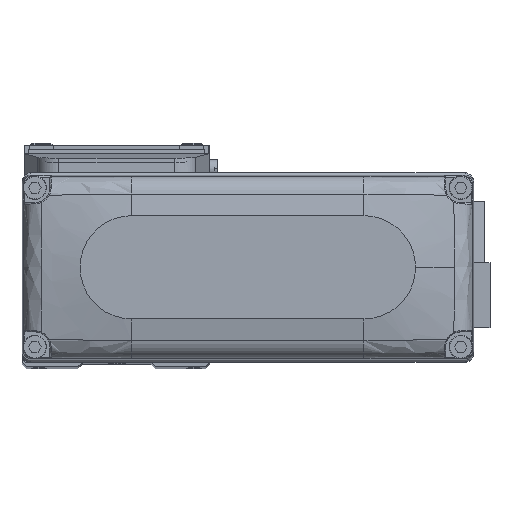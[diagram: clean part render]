
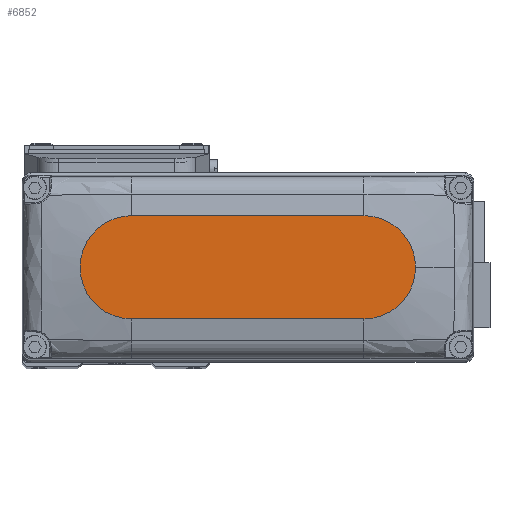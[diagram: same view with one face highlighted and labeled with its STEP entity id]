
A CAD part, top view. The second image highlights one B-rep face of the part: STEP entity #6852.
In plain terms, the highlighted planar face has unit normal (0, 0, 1).
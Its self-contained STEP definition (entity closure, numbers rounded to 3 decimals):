
#750 = VERTEX_POINT ( 'NONE', #33333 ) ;
#1383 = EDGE_CURVE ( 'NONE', #12390, #17731, #38028, .T. ) ;
#1455 = CIRCLE ( 'NONE', #23710, 12. ) ;
#1511 = VERTEX_POINT ( 'NONE', #20850 ) ;
#2147 = ORIENTED_EDGE ( 'NONE', *, *, #39064, .T. ) ;
#2177 = CIRCLE ( 'NONE', #24450, 12. ) ;
#2535 = LINE ( 'NONE', #14670, #15025 ) ;
#3308 = EDGE_CURVE ( 'NONE', #17731, #750, #1455, .T. ) ;
#3849 = CARTESIAN_POINT ( 'NONE',  ( 27., 0., 25. ) ) ;
#4317 = DIRECTION ( 'NONE',  ( 0., 0., 1. ) ) ;
#5482 = CIRCLE ( 'NONE', #27781, 12. ) ;
#6852 = ADVANCED_FACE ( 'NONE', ( #7268 ), #19413, .T. ) ;
#7268 = FACE_OUTER_BOUND ( 'NONE', #34729, .T. ) ;
#7857 = ORIENTED_EDGE ( 'NONE', *, *, #1383, .T. ) ;
#7864 = DIRECTION ( 'NONE',  ( 1., 0., 0. ) ) ;
#10694 = CARTESIAN_POINT ( 'NONE',  ( -27., -12., 25. ) ) ;
#12390 = VERTEX_POINT ( 'NONE', #39268 ) ;
#13500 = CARTESIAN_POINT ( 'NONE',  ( -27., 0., 25. ) ) ;
#14670 = CARTESIAN_POINT ( 'NONE',  ( -27., 12., 25. ) ) ;
#15025 = VECTOR ( 'NONE', #26833, 1000. ) ;
#15976 = DIRECTION ( 'NONE',  ( 0., 0., 1. ) ) ;
#16454 = DIRECTION ( 'NONE',  ( 1., 0., 0. ) ) ;
#17731 = VERTEX_POINT ( 'NONE', #26419 ) ;
#19413 = PLANE ( 'NONE',  #24883 ) ;
#20420 = VECTOR ( 'NONE', #22851, 1000. ) ;
#20806 = CARTESIAN_POINT ( 'NONE',  ( -27., 12., 25. ) ) ;
#20850 = CARTESIAN_POINT ( 'NONE',  ( 27., 12., 25. ) ) ;
#20854 = ORIENTED_EDGE ( 'NONE', *, *, #21013, .T. ) ;
#21013 = EDGE_CURVE ( 'NONE', #26190, #12390, #5482, .T. ) ;
#22851 = DIRECTION ( 'NONE',  ( 1., 0., 0. ) ) ;
#23011 = CARTESIAN_POINT ( 'NONE',  ( 27., 0., 25. ) ) ;
#23710 = AXIS2_PLACEMENT_3D ( 'NONE', #23011, #35184, #7864 ) ;
#24450 = AXIS2_PLACEMENT_3D ( 'NONE', #3849, #15976, #28154 ) ;
#24883 = AXIS2_PLACEMENT_3D ( 'NONE', #31601, #4317, #16454 ) ;
#24993 = ORIENTED_EDGE ( 'NONE', *, *, #3308, .T. ) ;
#25662 = DIRECTION ( 'NONE',  ( 0., 0., 1. ) ) ;
#26190 = VERTEX_POINT ( 'NONE', #20806 ) ;
#26419 = CARTESIAN_POINT ( 'NONE',  ( 27., -12., 25. ) ) ;
#26833 = DIRECTION ( 'NONE',  ( -1., 0., 0. ) ) ;
#27781 = AXIS2_PLACEMENT_3D ( 'NONE', #13500, #25662, #37830 ) ;
#28154 = DIRECTION ( 'NONE',  ( 1., 0., 0. ) ) ;
#31601 = CARTESIAN_POINT ( 'NONE',  ( 0., 0., 25. ) ) ;
#33333 = CARTESIAN_POINT ( 'NONE',  ( 39., 0., 25. ) ) ;
#34729 = EDGE_LOOP ( 'NONE', ( #37159, #20854, #7857, #24993, #2147 ) ) ;
#35184 = DIRECTION ( 'NONE',  ( 0., 0., 1. ) ) ;
#37159 = ORIENTED_EDGE ( 'NONE', *, *, #37204, .T. ) ;
#37204 = EDGE_CURVE ( 'NONE', #1511, #26190, #2535, .T. ) ;
#37830 = DIRECTION ( 'NONE',  ( 1., 0., 0. ) ) ;
#38028 = LINE ( 'NONE', #10694, #20420 ) ;
#39064 = EDGE_CURVE ( 'NONE', #750, #1511, #2177, .T. ) ;
#39268 = CARTESIAN_POINT ( 'NONE',  ( -27., -12., 25. ) ) ;
